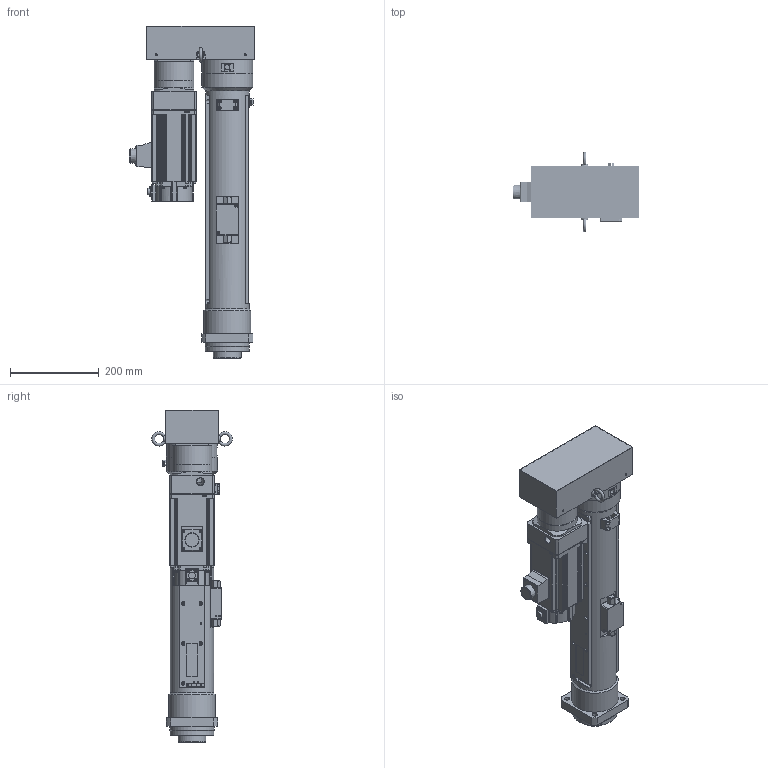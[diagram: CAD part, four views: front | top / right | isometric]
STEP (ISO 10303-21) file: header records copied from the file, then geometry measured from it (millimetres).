
FILE_DESCRIPTION( ('This file contains a STEP AP42 implementation' ,'as created by ZW3D STEP Interface translator.') ,'2;1' );
FILE_NAME( 'P015-400-265-A6V200_ASM_20.51.stp' ,'26 414.153759', (''), ('ZWCAD Software Co.'), 'Version 1.0', 'ZW3D to STEP translator', '' );
FILE_SCHEMA(('AUTOMOTIVE_DESIGN { 1 0 10303 214 1 1 1 1 }'));
Length unit declared in the file: millimetre
Products named in the file (1): 0
Bounding box: 283 x 180.9 x 748 mm (x, y, z)
Volume: 7843691.5 mm3; surface area: 1337199 mm2
Topology: 44 solids, 44 shells, 1844 faces, 4727 edges, 3159 vertices
Faces by surface type: plane 766, cylinder 755, cone 228, torus 69, sphere 16, bspline 10
Full cylindrical faces by diameter (mm): 1.6 x8, 2.459 x5, 2.75 x4, 3.2 x5, 3.3 x89, 4.2 x4, 4.3 x32, 4.5 x4, 5 x34, 5.5 x4, 6.5 x8, 6.6 x14, 6.647 x5, 6.8 x36, 7 x12, 8 x43, 8.4 x8, 8.5 x17, 9 x4, 11 x12, 12 x1, 14.8 x1, 15 x8, 15.5 x2, 16.5 x2, 18 x3, 18.917 x2, 19 x2, 20 x5, 22 x1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
Entity records: 62999 total; most frequent: CARTESIAN_POINT 13370, DIRECTION 10287, ORIENTED_EDGE 9238, EDGE_CURVE 4619, AXIS2_PLACEMENT_3D 3980, VERTEX_POINT 3091, EDGE_LOOP 2350, VECTOR 2327
